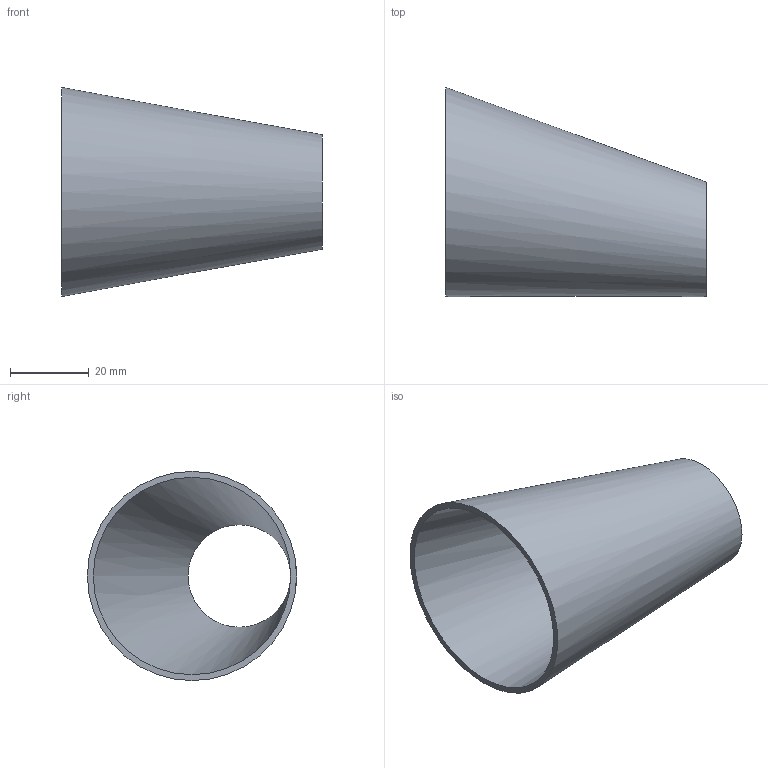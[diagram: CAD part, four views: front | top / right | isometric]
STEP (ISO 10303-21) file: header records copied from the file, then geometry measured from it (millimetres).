
FILE_DESCRIPTION(('FreeCAD Model'),'2;1');
FILE_NAME( '/home/martin/Documents/proyect/accesorios/stp/red-exc_DN50-25.step', '2017-12-31T13:03:28',('Author'),(''), 'Open CASCADE STEP processor 6.8','FreeCAD','Unknown');
FILE_SCHEMA(('AUTOMOTIVE_DESIGN_CC2 { 1 2 10303 214 -1 1 5 4 }'));
Length unit declared in the file: millimetre
Products named in the file (1): red-exc_DN50-25
Bounding box: 66 x 53 x 53 mm (x, y, z)
Volume: 12285.2 mm3; surface area: 17149.4 mm2
Topology: 1 solids, 1 shells, 4 faces, 6 edges, 4 vertices
Faces by surface type: bspline 2, plane 2
Entity records: 247 total; most frequent: CARTESIAN_POINT 87, DIRECTION 26, ORIENTED_EDGE 12, PCURVE 12, DEFINITIONAL_REPRESENTATION 12, CIRCLE 8, LINE 8, VECTOR 8
